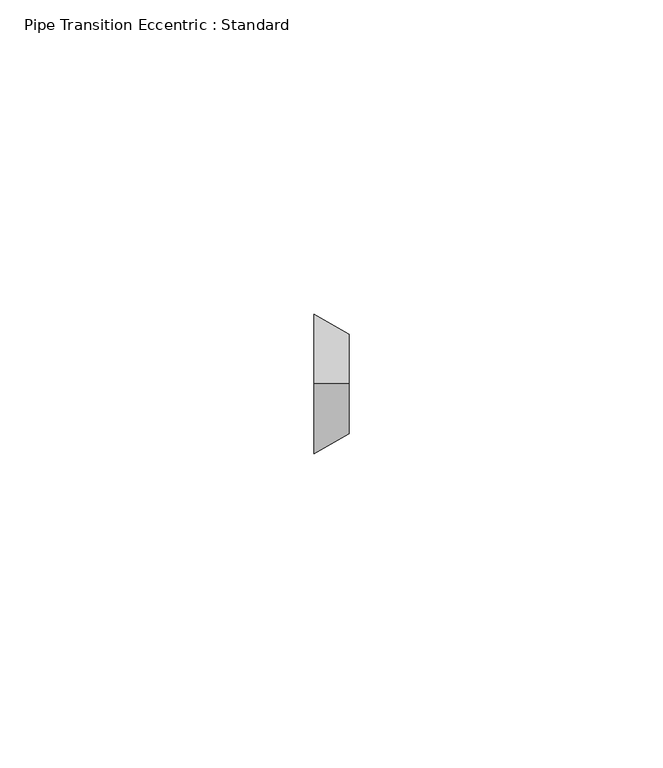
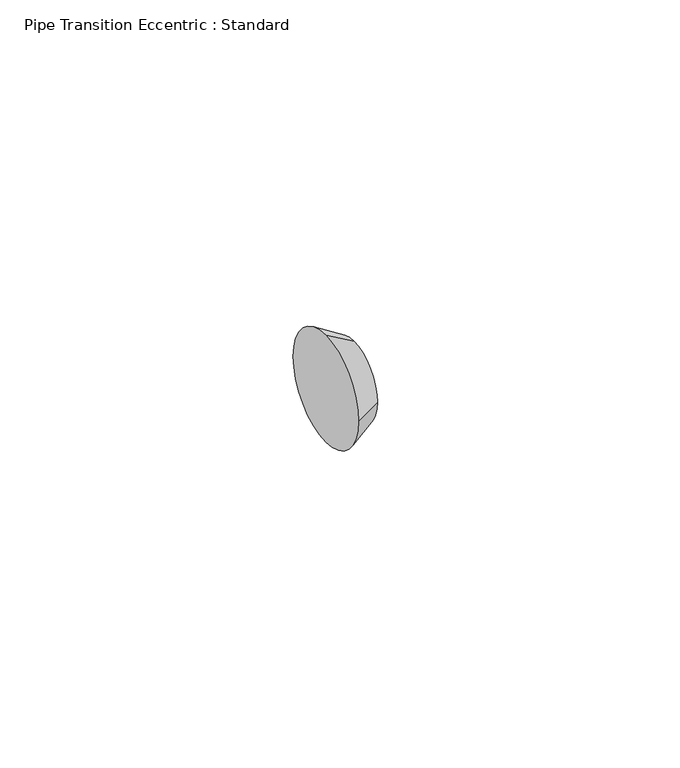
"""IFC4 building model written with IfcOpenShell, lengths in millimetres: pipe fitting geometry, Pipe Transition Eccentric : Standard."""

from ifc_helpers import new_model, si_unit, frame, origin, place, context, project, spatial, polyline, circle_curve, source, transform, mapped, element, save
from ifc_brep_helpers import plane_surface, revolved_surface, advanced_brep


def pipe_transition_eccentric_standard_495bb646(model_context):
    return source(origin(), model_context, "Body", "AdvancedBrep", [
        advanced_brep(
        [(5.55625, 0.0, 7.9375), (5.55625, -7.9375, 0.0), (5.55625, 0.0, -7.9375), (5.55625, 7.9375, 0.0), (0.0, 0.0, 11.1125), (0.0, 11.1125, 0.0), (0.0, 0.0, -11.1125), (0.0, -11.1125, 0.0)],
        [
            (0, 1, circle_curve(frame((5.55625, 0.0, 0.0), z_axis=(1.0, 0.0, 0.0), x_axis=(0.0, 0.0, 1.0)), 7.9375)),
            (1, 2, circle_curve(frame((5.55625, 0.0, 0.0), z_axis=(1.0, 0.0, 0.0), x_axis=(0.0, -1.0, 0.0)), 7.9375)),
            (2, 3, circle_curve(frame((5.55625, 0.0, 0.0), z_axis=(1.0, 0.0, 0.0), x_axis=(0.0, 0.0, -1.0)), 7.9375)),
            (3, 0, circle_curve(frame((5.55625, 0.0, 0.0), z_axis=(1.0, 0.0, 0.0), x_axis=(0.0, 1.0, 0.0)), 7.9375)),
            (4, 5, circle_curve(frame((0.0, 0.0, 0.0), z_axis=(-1.0, 0.0, 0.0), x_axis=(0.0, 1.0, 0.0)), 11.1125)),
            (5, 6, circle_curve(frame((0.0, 0.0, 0.0), z_axis=(-1.0, 0.0, 0.0), x_axis=(0.0, 0.0, -1.0)), 11.1125)),
            (6, 7, circle_curve(frame((0.0, 0.0, 0.0), z_axis=(-1.0, 0.0, 0.0), x_axis=(0.0, -1.0, 0.0)), 11.1125)),
            (7, 4, circle_curve(frame((0.0, 0.0, 0.0), z_axis=(-1.0, 0.0, 0.0), x_axis=(0.0, 0.0, 1.0)), 11.1125)),
            (7, 1),
            (0, 4),
            (6, 2),
            (5, 3),
        ],
        [
            plane_surface(frame((5.55625, 0.0, 0.0), z_axis=(1.0, 0.0, 0.0), x_axis=(0.0, -1.0, 0.0))),
            plane_surface(frame((0.0, 0.0, 0.0), z_axis=(-1.0, 0.0, 0.0), x_axis=(0.0, -1.0, 0.0))),
            revolved_surface(polyline([(5.556249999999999, 0.0, 7.937500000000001), (0.0, 0.0, 11.1125)]), (19.446875, 0.0, 0.0), (-1.0, 0.0, 0.0)),
            revolved_surface(polyline([(5.556249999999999, -7.937500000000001, 0.0), (0.0, -11.1125, 0.0)]), (19.446875, 0.0, 0.0), (-1.0, 0.0, 0.0)),
            revolved_surface(polyline([(5.556249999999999, 0.0, -7.937500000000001), (0.0, 0.0, -11.1125)]), (19.446875, 0.0, 0.0), (-1.0, 0.0, 0.0)),
            revolved_surface(polyline([(5.556249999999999, 7.937500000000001, 0.0), (0.0, 11.1125, 0.0)]), (19.446875, 0.0, 0.0), (-1.0, 0.0, 0.0)),
        ],
        [
            (0, [[1, 2, 3, 4]]),
            (1, [[5, 6, 7, 8]]),
            (2, [[-8, 9, -1, 10]]),
            (3, [[-7, 11, -2, -9]]),
            (4, [[-6, 12, -3, -11]]),
            (5, [[-5, -10, -4, -12]]),
        ],
    ),
        advanced_brep(
        [(5.55625, 0.0, 7.9375), (5.55625, -7.9375, 0.0), (5.55625, 0.0, -7.9375), (5.55625, 7.9375, 0.0), (0.0, 0.0, 11.1125), (0.0, 11.1125, 0.0), (0.0, 0.0, -11.1125), (0.0, -11.1125, 0.0)],
        [
            (0, 1, circle_curve(frame((5.55625, 0.0, 0.0), z_axis=(1.0, 0.0, -1.5617124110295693e-12), x_axis=(1.5617090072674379e-12, 0.0, 1.0)), 7.9375)),
            (1, 2, circle_curve(frame((5.55625, 0.0, 0.0), z_axis=(1.0, 0.0, -1.5008087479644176e-12), x_axis=(0.0, -1.0, 0.0)), 7.9375)),
            (2, 3, circle_curve(frame((5.55625, 0.0, 0.0), z_axis=(1.0, 0.0, -2.402593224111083e-12), x_axis=(-2.4026464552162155e-12, 0.0, -1.0)), 7.9375)),
            (3, 0, circle_curve(frame((5.55625, 0.0, 0.0), z_axis=(1.0, 0.0, 0.0), x_axis=(0.0, 1.0, 0.0)), 7.9375)),
            (4, 5, circle_curve(frame((0.0, 0.0, 0.0), z_axis=(-1.0, 0.0, 0.0), x_axis=(0.0, 1.0, 0.0)), 11.1125)),
            (5, 6, circle_curve(frame((0.0, 0.0, 0.0), z_axis=(-1.0, 0.0, 2.402593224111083e-12), x_axis=(-2.4026464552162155e-12, 0.0, -1.0)), 11.1125)),
            (6, 7, circle_curve(frame((0.0, 0.0, 0.0), z_axis=(-1.0, 0.0, 1.5008087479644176e-12), x_axis=(0.0, -1.0, 0.0)), 11.1125)),
            (7, 4, circle_curve(frame((0.0, 0.0, 0.0), z_axis=(-1.0, 0.0, 1.5617124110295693e-12), x_axis=(1.5617090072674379e-12, 0.0, 1.0)), 11.1125)),
            (7, 1),
            (0, 4),
            (6, 2),
            (5, 3),
        ],
        [
            plane_surface(frame((5.55625, 0.0, 0.0), z_axis=(1.0, 0.0, 0.0), x_axis=(0.0, -1.0, 0.0))),
            plane_surface(frame((0.0, 0.0, 0.0), z_axis=(-1.0, 0.0, 0.0), x_axis=(0.0, -1.0, 0.0))),
            revolved_surface(polyline([(5.556250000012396, 0.0, 7.937499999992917), (0.0, 0.0, 11.1125)]), (19.446875, 0.0, 0.0), (-1.0, 0.0, 1.5617124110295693e-12)),
            revolved_surface(polyline([(5.556250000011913, -7.937499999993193, 0.0), (0.0, -11.1125, 0.0)]), (19.446875, 0.0, 0.0), (-1.0, 0.0, 1.5008087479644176e-12)),
            revolved_surface(polyline([(5.556250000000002, 0.0, -7.937499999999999), (-2.6698643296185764e-11, 0.0, -11.112500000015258)]), (19.446875, 0.0, 0.0), (-1.0, 0.0, 2.402593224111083e-12)),
            revolved_surface(polyline([(5.556249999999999, 7.937500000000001, 0.0), (0.0, 11.1125, 0.0)]), (19.446875, 0.0, 0.0), (-1.0, 0.0, 0.0)),
        ],
        [
            (0, [[1, 2, 3, 4]]),
            (1, [[5, 6, 7, 8]]),
            (2, [[-8, 9, -1, 10]]),
            (3, [[-7, 11, -2, -9]]),
            (4, [[-6, 12, -3, -11]]),
            (5, [[-5, -10, -4, -12]]),
        ],
    ),
    ])


if __name__ == "__main__":
    model = new_model("IFC4")
    model_context = context("Model", 3, world=origin())
    ifc_project = project(units=[si_unit("LENGTHUNIT", "METRE", prefix="MILLI")], contexts=[model_context])
    site = spatial("IfcSite", under=ifc_project)
    building = spatial("IfcBuilding", under=site)
    placement = place(None, origin())
    pipe_transition_eccentric_standard_shape = pipe_transition_eccentric_standard_495bb646(model_context)
    element("IfcPipeFitting", 1, ObjectType="Pipe Transition Eccentric : Standard", at=placement, inside=building, context=model_context, shape_type="MappedRepresentation", body=[
        mapped(pipe_transition_eccentric_standard_shape, transform((0.0, 0.0, 0.0), x_axis=(1.0, 0.0, 0.0), y_axis=(0.0, 1.0, 0.0), z_axis=(0.0, 0.0, 1.0))),
    ])
    save(model, "model.ifc")
